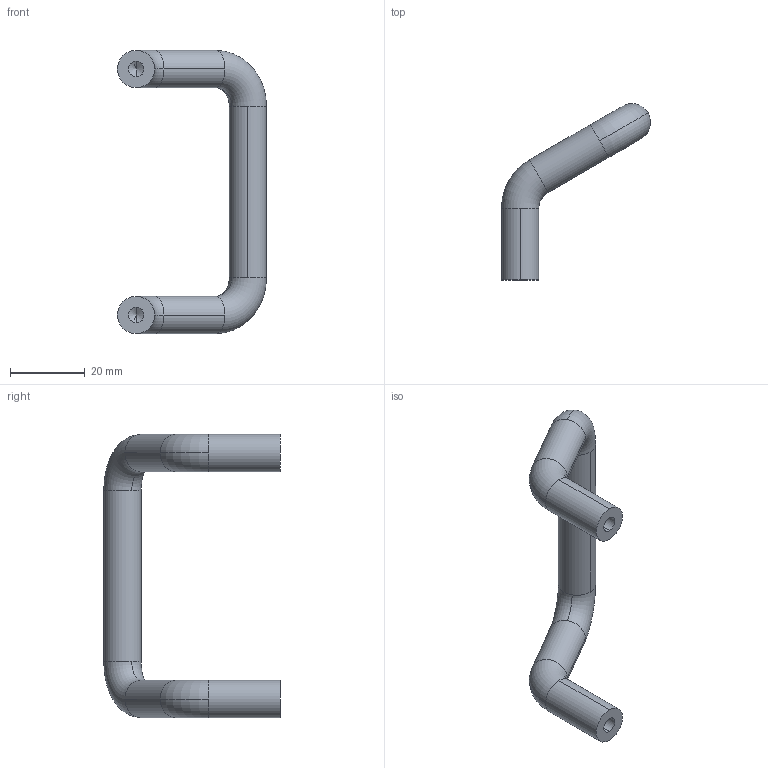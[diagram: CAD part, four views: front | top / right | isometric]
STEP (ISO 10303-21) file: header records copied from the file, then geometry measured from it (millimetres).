
FILE_DESCRIPTION (( 'STEP AP203' ), '1' );
FILE_NAME ('E07-507066.STEP', '2024-10-29T05:52:46', ( '' ), ( '' ), 'SwSTEP 2.0', 'SolidWorks 2021', '' );
FILE_SCHEMA (( 'CONFIG_CONTROL_DESIGN' ));
Length unit declared in the file: millimetre
Products named in the file (1): E07-507066
Bounding box: 40 x 47.32 x 76 mm (x, y, z)
Volume: 13337.1 mm3; surface area: 5988.3 mm2
Topology: 1 solids, 1 shells, 28 faces, 70 edges, 42 vertices
Faces by surface type: cylinder 14, torus 8, cone 4, plane 2
Entity records: 907 total; most frequent: DIRECTION 172, CARTESIAN_POINT 137, ORIENTED_EDGE 132, AXIS2_PLACEMENT_3D 77, EDGE_CURVE 66, CIRCLE 48, VERTEX_POINT 42, EDGE_LOOP 30
